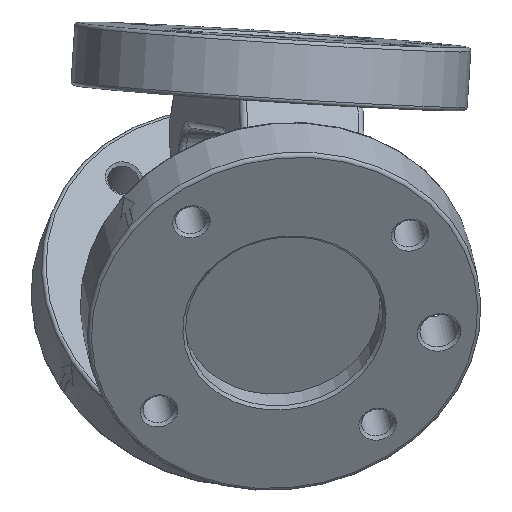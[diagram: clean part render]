
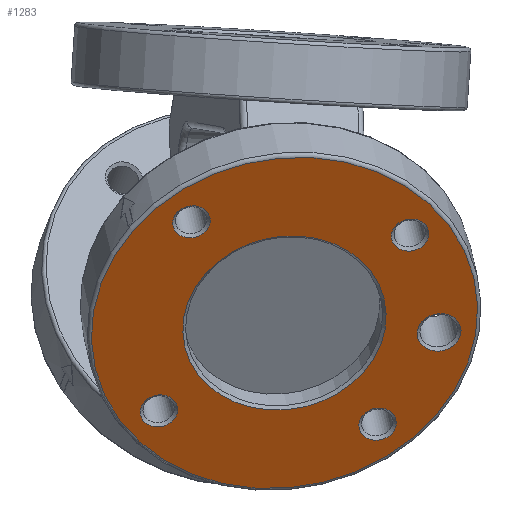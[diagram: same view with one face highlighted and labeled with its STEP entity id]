
A CAD part, isometric view. The second image highlights one B-rep face of the part: STEP entity #1283.
In plain terms, the highlighted planar face has unit normal (-0.612, -0.789, 0.057) as drawn and (0, 0, 1) by its records, which use the part's own axes.
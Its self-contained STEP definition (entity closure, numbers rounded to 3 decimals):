
#78=FACE_BOUND('',#338,.T.);
#79=FACE_BOUND('',#339,.T.);
#80=FACE_BOUND('',#340,.T.);
#81=FACE_BOUND('',#341,.T.);
#82=FACE_BOUND('',#342,.T.);
#83=FACE_BOUND('',#343,.T.);
#150=CIRCLE('',#1484,3.);
#151=CIRCLE('',#1486,30.9);
#152=CIRCLE('',#1487,30.9);
#153=CIRCLE('',#1488,3.);
#154=CIRCLE('',#1489,3.);
#155=CIRCLE('',#1490,16.26);
#156=CIRCLE('',#1491,3.);
#157=CIRCLE('',#1492,3.51);
#189=PLANE('',#1485);
#254=FACE_OUTER_BOUND('',#337,.T.);
#337=EDGE_LOOP('',(#1138,#1139));
#338=EDGE_LOOP('',(#1140));
#339=EDGE_LOOP('',(#1141));
#340=EDGE_LOOP('',(#1142));
#341=EDGE_LOOP('',(#1143));
#342=EDGE_LOOP('',(#1144));
#343=EDGE_LOOP('',(#1145));
#640=VERTEX_POINT('',#2279);
#641=VERTEX_POINT('',#2283);
#642=VERTEX_POINT('',#2284);
#643=VERTEX_POINT('',#2287);
#644=VERTEX_POINT('',#2289);
#645=VERTEX_POINT('',#2291);
#646=VERTEX_POINT('',#2293);
#647=VERTEX_POINT('',#2295);
#810=EDGE_CURVE('',#640,#640,#150,.T.);
#812=EDGE_CURVE('',#641,#642,#151,.T.);
#813=EDGE_CURVE('',#642,#641,#152,.T.);
#814=EDGE_CURVE('',#643,#643,#153,.T.);
#815=EDGE_CURVE('',#644,#644,#154,.T.);
#816=EDGE_CURVE('',#645,#645,#155,.T.);
#817=EDGE_CURVE('',#646,#646,#156,.T.);
#818=EDGE_CURVE('',#647,#647,#157,.T.);
#1138=ORIENTED_EDGE('',*,*,#812,.F.);
#1139=ORIENTED_EDGE('',*,*,#813,.F.);
#1140=ORIENTED_EDGE('',*,*,#814,.F.);
#1141=ORIENTED_EDGE('',*,*,#815,.F.);
#1142=ORIENTED_EDGE('',*,*,#816,.F.);
#1143=ORIENTED_EDGE('',*,*,#817,.F.);
#1144=ORIENTED_EDGE('',*,*,#818,.F.);
#1145=ORIENTED_EDGE('',*,*,#810,.F.);
#1283=ADVANCED_FACE('',(#254,#78,#79,#80,#81,#82,#83),#189,.T.);
#1484=AXIS2_PLACEMENT_3D('',#2280,#1885,#1886);
#1485=AXIS2_PLACEMENT_3D('',#2282,#1888,#1889);
#1486=AXIS2_PLACEMENT_3D('',#2285,#1890,#1891);
#1487=AXIS2_PLACEMENT_3D('',#2286,#1892,#1893);
#1488=AXIS2_PLACEMENT_3D('',#2288,#1894,#1895);
#1489=AXIS2_PLACEMENT_3D('',#2290,#1896,#1897);
#1490=AXIS2_PLACEMENT_3D('',#2292,#1898,#1899);
#1491=AXIS2_PLACEMENT_3D('',#2294,#1900,#1901);
#1492=AXIS2_PLACEMENT_3D('',#2296,#1902,#1903);
#1885=DIRECTION('center_axis',(0.,0.,1.));
#1886=DIRECTION('ref_axis',(1.,0.,0.));
#1888=DIRECTION('center_axis',(0.,0.,1.));
#1889=DIRECTION('ref_axis',(1.,0.,0.));
#1890=DIRECTION('center_axis',(0.,0.,-1.));
#1891=DIRECTION('ref_axis',(-1.,0.,0.));
#1892=DIRECTION('center_axis',(0.,0.,-1.));
#1893=DIRECTION('ref_axis',(-1.,0.,0.));
#1894=DIRECTION('center_axis',(0.,0.,1.));
#1895=DIRECTION('ref_axis',(0.,-1.,0.));
#1896=DIRECTION('center_axis',(0.,0.,1.));
#1897=DIRECTION('ref_axis',(-1.,0.,0.));
#1898=DIRECTION('center_axis',(0.,0.,1.));
#1899=DIRECTION('ref_axis',(-1.,0.,0.));
#1900=DIRECTION('center_axis',(0.,0.,1.));
#1901=DIRECTION('ref_axis',(0.,1.,0.));
#1902=DIRECTION('center_axis',(0.,0.,1.));
#1903=DIRECTION('ref_axis',(-1.,0.,0.));
#2279=CARTESIAN_POINT('',(-20.678,17.678,10.));
#2280=CARTESIAN_POINT('Origin',(-17.678,17.678,10.));
#2282=CARTESIAN_POINT('Origin',(0.,0.,
10.));
#2283=CARTESIAN_POINT('',(30.9,0.,10.));
#2284=CARTESIAN_POINT('',(-30.9,0.,10.));
#2285=CARTESIAN_POINT('Origin',(0.,0.,10.));
#2286=CARTESIAN_POINT('Origin',(0.,0.,10.));
#2287=CARTESIAN_POINT('',(17.678,20.678,10.));
#2288=CARTESIAN_POINT('Origin',(17.678,17.678,10.));
#2289=CARTESIAN_POINT('',(20.678,-17.678,10.));
#2290=CARTESIAN_POINT('Origin',(17.678,-17.678,10.));
#2291=CARTESIAN_POINT('',(16.26,0.,10.));
#2292=CARTESIAN_POINT('Origin',(0.,0.,10.));
#2293=CARTESIAN_POINT('',(-17.678,-20.678,10.));
#2294=CARTESIAN_POINT('Origin',(-17.678,-17.678,10.));
#2295=CARTESIAN_POINT('',(28.51,0.,10.));
#2296=CARTESIAN_POINT('Origin',(25.,0.,10.));
